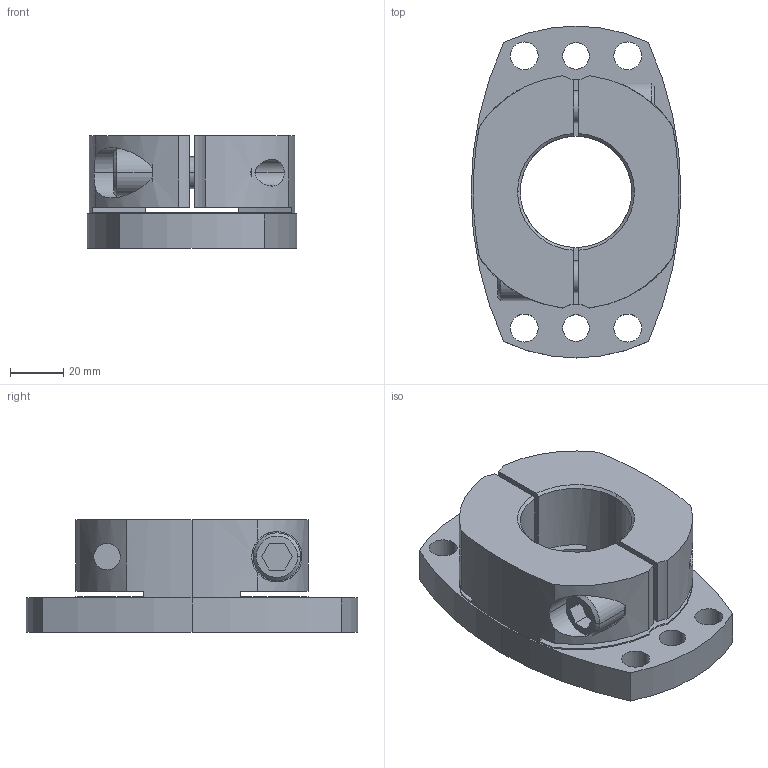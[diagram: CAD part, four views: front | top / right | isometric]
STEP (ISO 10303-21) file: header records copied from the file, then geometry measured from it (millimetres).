
FILE_DESCRIPTION((''),'2;1');
FILE_NAME('SHDB-125B-42.stp','2026-01-28T08:50:25',(''),(''),'AutoCAD STEP 2000i','AutoCAD 2000i',', , ');
FILE_SCHEMA(('CONFIG_CONTROL_DESIGN'));
Length unit declared in the file: millimetre
Products named in the file (2): SHDB-125B-42; 忣兜1
Assembly tree (1 placements, depth 2):
  SHDB-125B-42
    忣兜1
Bounding box: 79 x 125 x 42.5 mm (x, y, z)
Volume: 201087.6 mm3; surface area: 44853.6 mm2
Topology: 1 solids, 1 shells, 108 faces, 286 edges, 188 vertices
Faces by surface type: cylinder 62, plane 36, cone 10
Entity records: 3825 total; most frequent: CARTESIAN_POINT 904, DIRECTION 624, ORIENTED_EDGE 572, EDGE_CURVE 286, AXIS2_PLACEMENT_3D 248, VERTEX_POINT 188, CIRCLE 138, EDGE_LOOP 134
